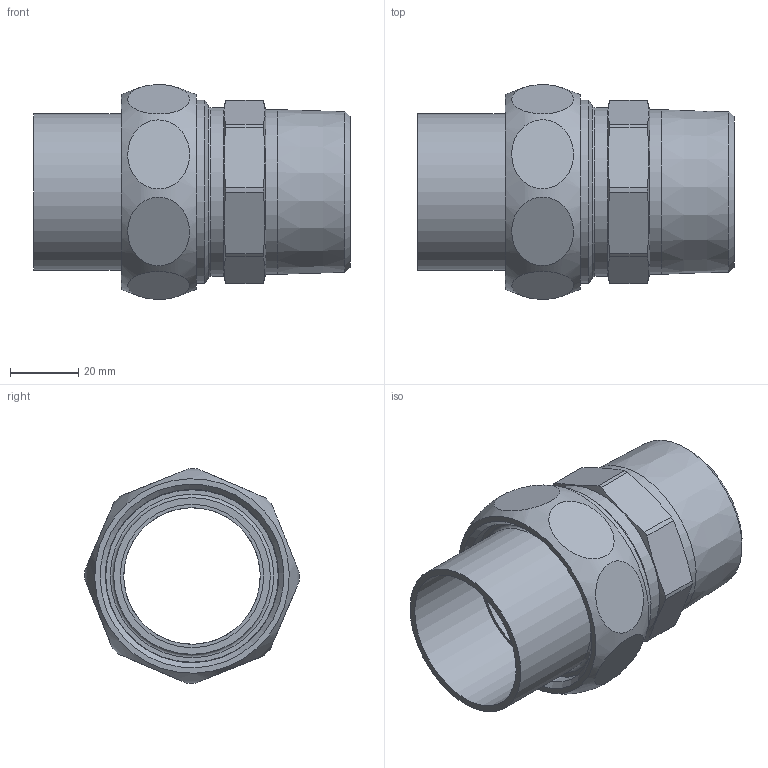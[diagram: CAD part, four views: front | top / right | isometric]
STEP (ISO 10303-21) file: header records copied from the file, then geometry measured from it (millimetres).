
FILE_DESCRIPTION(/* description */ (''),/* implementation_level */ '2;1');
FILE_NAME(/* name */ '\\lg50011\SANHA_LEGNICA\Engineering\Public\RYSUNKI\SANHA POLSKA\4343\Inventor\stp\1434342112.stp',/* time_stamp */ '2021-10-06T07:27:56+02:00',/* author */ ('gomulka'),/* organization */ (''),/* preprocessor_version */ 'ST-DEVELOPER v18.1',/* originating_system */ 'Autodesk Inventor 2021',/* authorisation */ '');
FILE_SCHEMA (('AUTOMOTIVE_DESIGN { 1 0 10303 214 3 1 1 }'));
Length unit declared in the file: millimetre
Products named in the file (4): 1434342112; 14381_42-134(2); R14374_134(2); 14386g_112-134(2)
Assembly tree (3 placements, depth 2):
  1434342112
    14381_42-134(2)
    R14374_134(2)
    14386g_112-134(2)
Bounding box: 92.56 x 62.89 x 62.89 mm (x, y, z)
Volume: 70193.4 mm3; surface area: 38458.6 mm2
Topology: 3 solids, 3 shells, 56 faces, 162 edges, 122 vertices
Faces by surface type: plane 25, cylinder 19, cone 8, torus 3, bspline 1
Full cylindrical faces by diameter (mm): 40 x2, 42 x1, 45.9 x1, 48 x1, 48.328 x1, 49.6 x1, 50.5 x2, 50.788 x1, 53.746 x1
Entity records: 2665 total; most frequent: CARTESIAN_POINT 1026, DIRECTION 327, ORIENTED_EDGE 324, EDGE_CURVE 162, AXIS2_PLACEMENT_3D 146, VERTEX_POINT 122, CIRCLE 84, EDGE_LOOP 72
